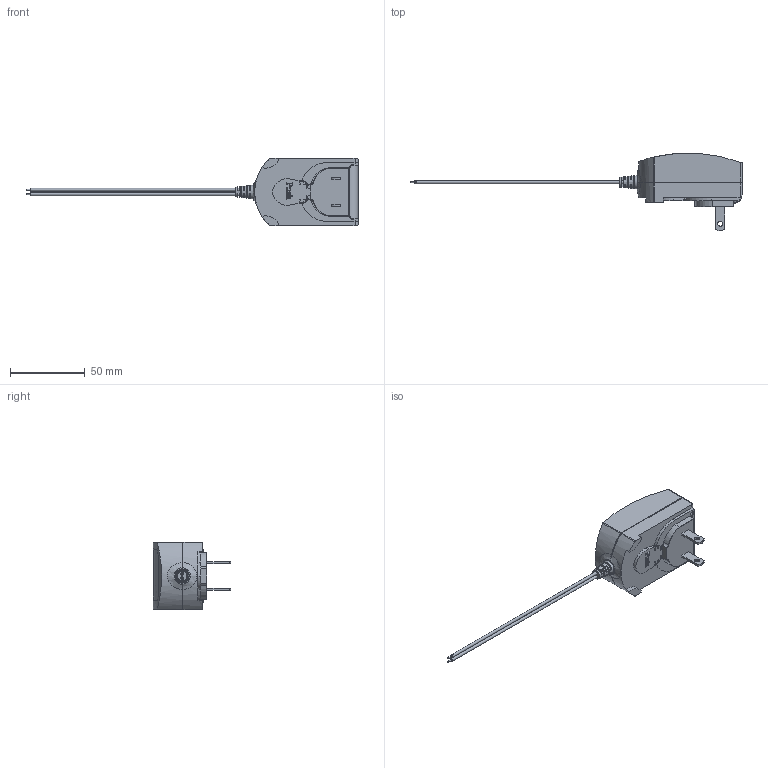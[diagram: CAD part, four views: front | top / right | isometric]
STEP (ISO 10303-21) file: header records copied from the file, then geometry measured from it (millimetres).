
FILE_DESCRIPTION (( 'STEP AP214' ), '1' );
FILE_NAME ('NA.STEP', '2016-01-04T19:56:49', ( 'Daryl' ), ( 'Microsoft' ), 'SwSTEP 2.0', 'SolidWorks 2014', '' );
FILE_SCHEMA (( 'AUTOMOTIVE_DESIGN' ));
Length unit declared in the file: millimetre
Products named in the file (1): NA
Bounding box: 222.1 x 51.91 x 45 mm (x, y, z)
Surface area: 18594.4 mm2 (no closed solid volume)
Topology: 0 solids, 33 shells, 543 faces, 2701 edges, 2157 vertices
Faces by surface type: bspline 238, plane 236, cylinder 60, torus 8, cone 1
Full cylindrical faces by diameter (mm): 1 x2, 1.9 x2, 3.3 x2
Entity records: 40404 total; most frequent: CARTESIAN_POINT 17389, ORIENTED_EDGE 3561, EDGE_CURVE 2685, VERTEX_POINT 2151, DIRECTION 1965, B_SPLINE_CURVE_WITH_KNOTS 1505, LINE 997, VECTOR 997
